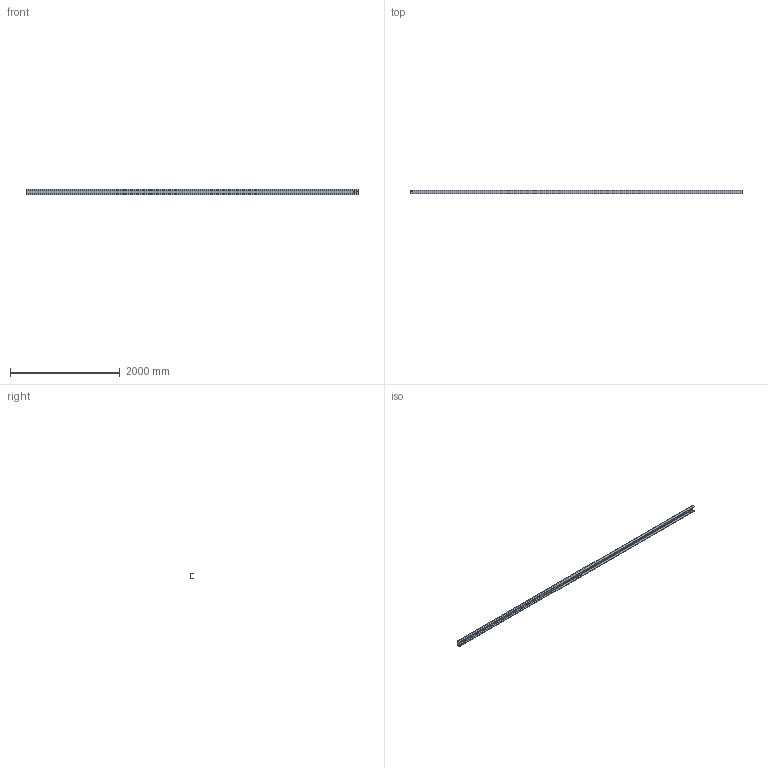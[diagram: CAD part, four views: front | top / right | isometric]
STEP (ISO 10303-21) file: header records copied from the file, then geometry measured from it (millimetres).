
FILE_DESCRIPTION (( 'STEP AP214' ), '1' );
FILE_NAME ('CCJ029-REP.005 - POUTRE B1-B3.STEP', '2024-01-29T11:06:44', ( '' ), ( '' ), 'SwSTEP 2.0', 'SolidWorks 2021', '' );
FILE_SCHEMA (( 'AUTOMOTIVE_DESIGN' ));
Length unit declared in the file: millimetre
Products named in the file (1): CCJ029-REP.005 - POUTRE B1-B3
Bounding box: 6055 x 55 x 100 mm (x, y, z)
Volume: 7559447.6 mm3; surface area: 2439217.4 mm2
Topology: 1 solids, 1 shells, 71 faces, 192 edges, 128 vertices
Faces by surface type: bspline 26, cylinder 24, plane 21
Entity records: 4220 total; most frequent: CARTESIAN_POINT 2482, ORIENTED_EDGE 384, DIRECTION 280, EDGE_CURVE 192, VERTEX_POINT 128, EDGE_LOOP 98, AXIS2_PLACEMENT_3D 94, LINE 92
